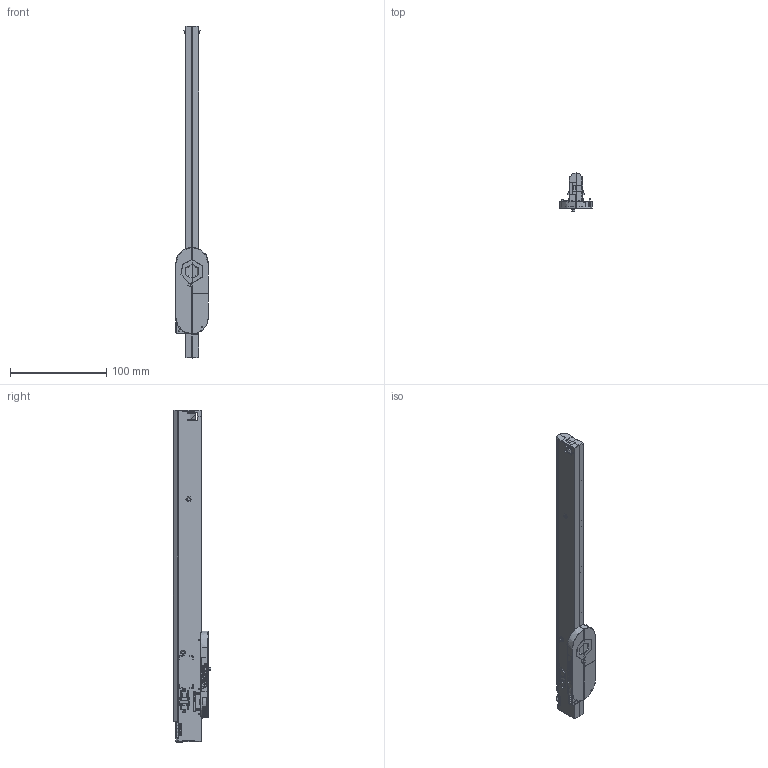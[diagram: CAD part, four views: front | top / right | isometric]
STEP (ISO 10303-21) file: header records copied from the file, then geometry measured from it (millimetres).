
FILE_DESCRIPTION(('Creo Elements/Direct Modeling STEP Export'),'2;1');
FILE_NAME('ad_14942_12017V7_186975_186976_intrack_adapter_Rot_345_B2L.stp','2020-11-16T13:23:39',(''),(''),'Creo Elements/Direct Modeling STEP processor for AP214 (Solid Model)','Creo Elements/Direct Modeling 20.0C 26-Jan-2018 (C) Parametric Technology GmbH','');
FILE_SCHEMA(('AUTOMOTIVE_DESIGN { 1 0 10303 214 1 1 1 1 }'));
Length unit declared in the file: millimetre
Products named in the file (2486): welle_149_phasenwahl; cover_149_12012V0_605429_605430_intrack_rot; case_149_605407_605408_lower-part_intrack_rot_VS_345; case_149_605421_605422-xxCA_upper-part_intrack_rot_345; geh_laenge_345mm; Obj_S301; Obj_R128; Gen_KLEBER6; Gen_KLEBER5; Gen_KLEBER4; Gen_KLEBER3; Gen_KLEBER2; Gen_KLEBER1; Gen_CODE4; T1; T2; T3; T4; T174; Obj_C202; Obj_B2L45W; Obj_X204; Obj_X201; Obj_X2; Obj_X1; T1-20870.PRT001; Obj_T421; KOERPER_PRT-13580_PRT-246-24470.PRT; Obj_T102; Koerper002; Obj_T101; KOERPER.PRT051; Obj_R424; 191624_PRT.PRT001; Obj_R423; 191624_PRT.PRT; Obj_R422; KOERPER.PRT050; Obj_R421; KOERPER.PRT049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
Assembly tree (2490 placements, depth 7):
  ad_14942_12017V7_186975_186976_Intrack_Adapter_Rot_345_B2L
    Kabelbaugruppen
      complete_assembly-group_L-rot
      complete_assembly-group_N-rot
      complete_assembly-group_L3
      complete_assembly-group_L2
      complete_assembly-group_L1
    riegel_120
    Welle_Stromabnehmer
      kontakttr_120_t777_543470_543471.1
      kontakttr_120_t777_543470_543471
      Druckfeder.2  x4
      kontakt_120_2.1
      kontakt_120_2
      kontakt_120_1
      kontakt_120_k892_543472
      welle_stromabnehmer_120_t776_543460_543461
    Platine
      45W_B2L-DIP-SWITCH
        Part
          Obj_C1
          Obj_C2
          Obj_C3
            RND_150-1206B103K101NT.prt
          Obj_C4
          Obj_C101
            189953.prt
          Obj_C103
          Obj_C104
            189953.prt001
          Obj_C105
            189953.prt002
          Obj_C106
            189953.prt003
          Obj_C107
            189953.prt004
          Obj_C108
            189953.prt005
          Obj_C109
            RND_150-1206B103K101NT_PRT-5680.PRT
          Obj_C110
            RND_150-0805B101K201NT.prt
          Obj_C111
            189953.prt006
          Obj_SP501
            COMPOUND214
              T2
              T1
            COMPOUND215
              T2
              T1
            COMPOUND216
              T2
              T1
            COMPOUND217
              T2
              T1
            COMPOUND218
              T2
              T1
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Bounding box: 34.05 x 39.05 x 345 mm (x, y, z)
Topology: 213 solids, 237 shells, 12533 faces, 34164 edges, 25129 vertices
Faces by surface type: plane 8012, cylinder 3094, bspline 572, torus 470, cone 240, sphere 118, revolution 23, extrusion 4
Full cylindrical faces by diameter (mm): 0.7 x2
Entity records: 600285 total; most frequent: CARTESIAN_POINT 162502, DIRECTION 66303, ORIENTED_EDGE 65930, EDGE_CURVE 32968, VECTOR 23840, LINE 23836, VERTEX_POINT 21411, AXIS2_PLACEMENT_3D 21220
